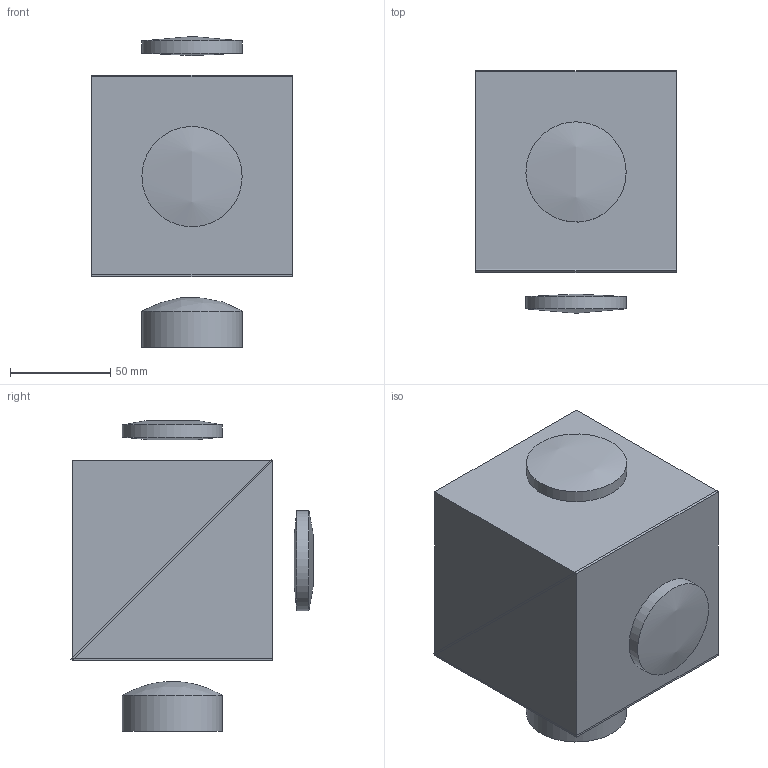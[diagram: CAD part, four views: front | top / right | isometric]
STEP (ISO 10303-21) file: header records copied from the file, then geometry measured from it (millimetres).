
FILE_DESCRIPTION ((), '1');
FILE_NAME ('C:\Documents and Settings\DOUSHKINA.VALENTINA\My Documents\CACT\CACT2\Class5\2 Channel System.STP', '2007-09-20T17:16:50', ('Unknown'), ('Unknown'), 'HarmonyWare STEP v1.3.2', 'HarmonyWare Translators', '');
FILE_SCHEMA (('CONFIG_CONTROL_DESIGN'));
Length unit declared in the file: millimetre
Products named in the file (8): product-name
Bounding box: 100 x 121.07 x 155.16 mm (x, y, z)
Volume: 1127827.1 mm3; surface area: 133184.1 mm2
Topology: 7 solids, 7 shells, 30 faces, 336 edges, 590 vertices
Faces by surface type: plane 18, sphere 8, cylinder 4
Full cylindrical faces by diameter (mm): 50 x4
Entity records: 2295 total; most frequent: CARTESIAN_POINT 838, B_SPLINE_CURVE_WITH_KNOTS 328, ORIENTED_EDGE 96, PERSON 64, ORGANIZATION 64, PERSON_AND_ORGANIZATION 64, DIRECTION 60, EDGE_CURVE 48
